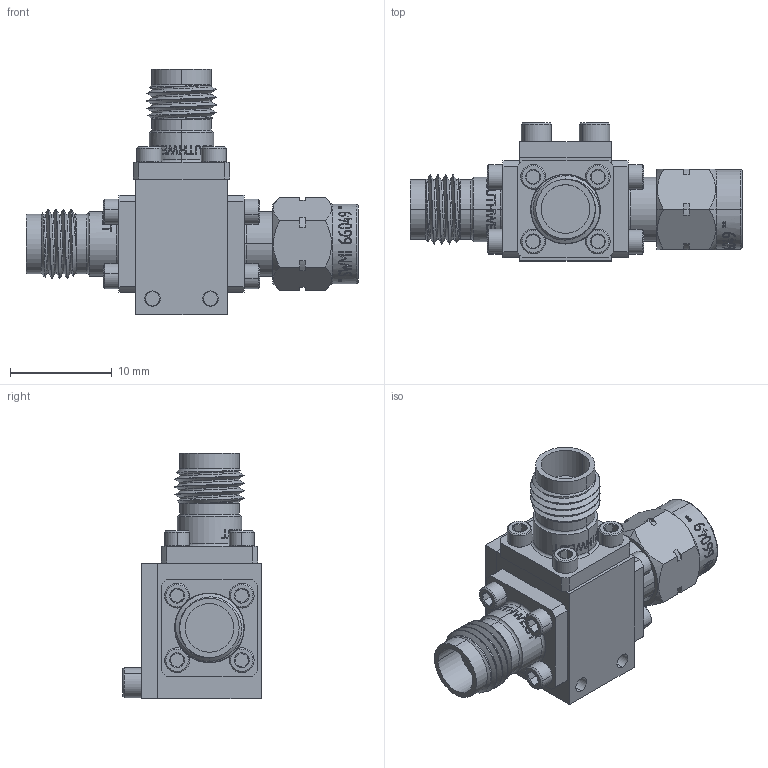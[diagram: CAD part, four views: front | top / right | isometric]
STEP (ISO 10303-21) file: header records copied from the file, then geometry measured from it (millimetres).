
FILE_DESCRIPTION (( 'STEP AP214' ), '1' );
FILE_NAME ('HL9465-JPJ.STEP', '2023-03-04T23:58:38', ( '' ), ( '' ), 'SwSTEP 2.0', 'SolidWorks 2023', '' );
FILE_SCHEMA (( 'AUTOMOTIVE_DESIGN' ));
Length unit declared in the file: millimetre
Products named in the file (12): 2.40 P .375SQ 4H .067H.STP; 2.40 Gasket.STP; 2.40 C''NUT.STP; 100174_HPPI; 2.40mm J 4H .375SQ; 2.40 Retaining Ring.STP; 0-80x1-8_Socket Head Cap Screw_92196A052_18-8 Stainless Steel Socket Head Screw_92196A052; 100173_HPPI; 1-72x1-4_socket_head; 2.40mm P 4H .375SQ; 2.40mm P 4H .375SQ.STP; HL9465-JPJ
Assembly tree (24 placements, depth 4):
  HL9465-JPJ
    100173_HPPI
    100174_HPPI
    1-72x1-4_socket_head  x2
    2.40mm J 4H .375SQ  x2
    2.40mm P 4H .375SQ
      2.40mm P 4H .375SQ.STP
        2.40 Retaining Ring.STP
        2.40 P .375SQ 4H .067H.STP
        2.40 C''NUT.STP
        2.40 Gasket.STP
    0-80x1-8_Socket Head Cap Screw_92196A052_18-8 Stainless Steel Socket Head Screw_92196A052  x12
Bounding box: 32.65 x 13.59 x 24.13 mm (x, y, z)
Volume: 2608.5 mm3; surface area: 4147.6 mm2
Topology: 22 solids, 22 shells, 1294 faces, 3248 edges, 2066 vertices
Faces by surface type: cylinder 471, plane 359, cone 236, bspline 186, torus 42
Entity records: 30072 total; most frequent: CARTESIAN_POINT 13064, ORIENTED_EDGE 2958, DIRECTION 1896, EDGE_CURVE 1479, VERTEX_POINT 964, AXIS2_PLACEMENT_3D 772, B_SPLINE_CURVE_WITH_KNOTS 703, EDGE_LOOP 657
